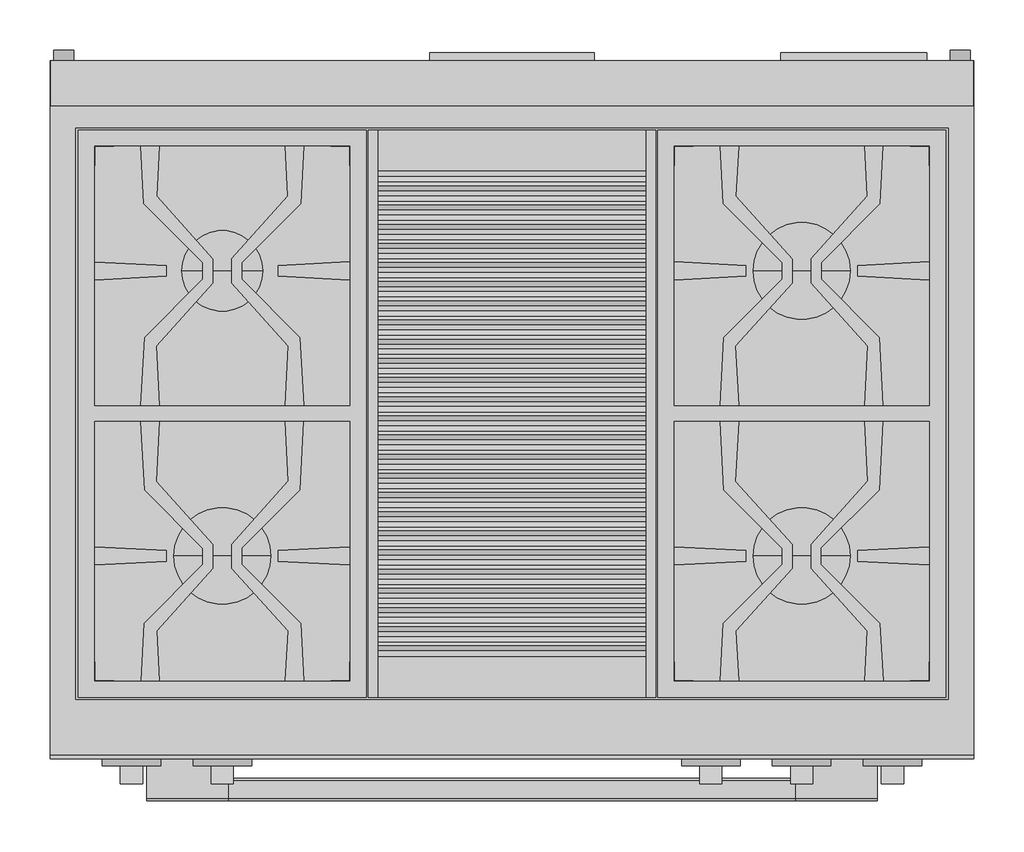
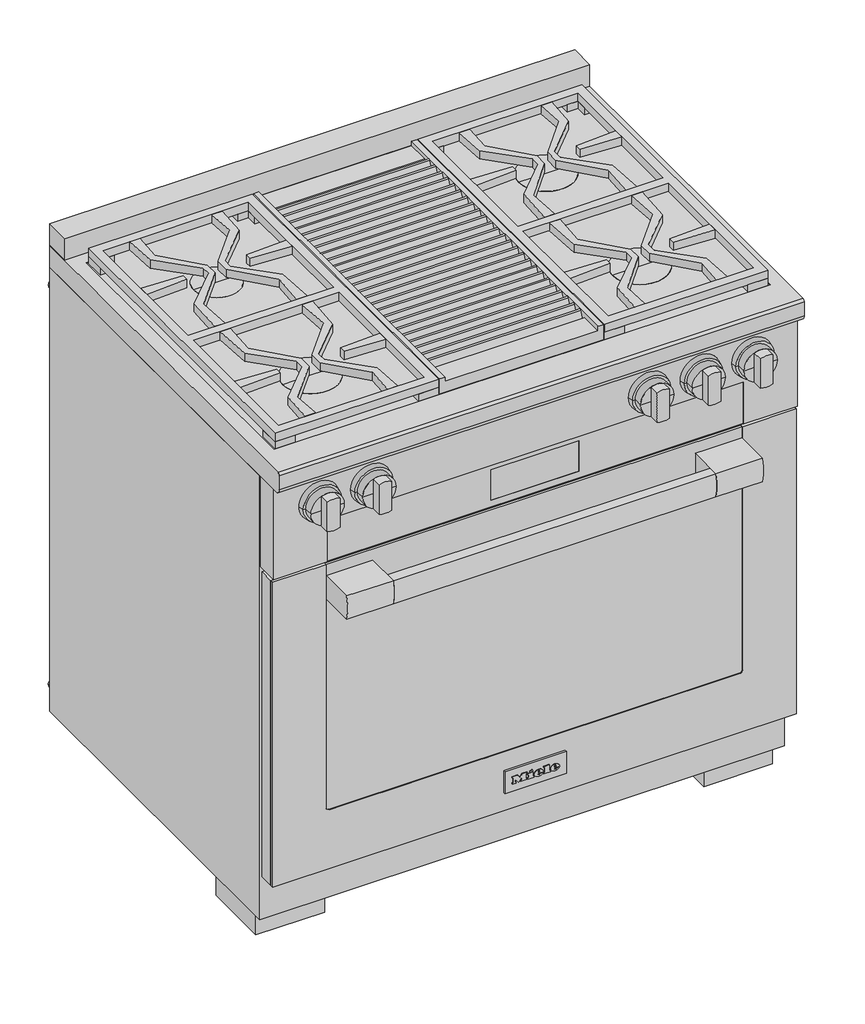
# Not in any storey: 1 proxy.
"""IFC4 building model written with IfcOpenShell, lengths in millimetres."""

from ifc_helpers import new_model, si_unit, origin, place, context, project, spatial, transform, mapped, element, save
from components import specialty_equipment_440a6973, specialty_equipment_dba59635

model = new_model("IFC4")

# Units and contexts
model_context = context("Model", 3, world=origin())
ifc_project = project(units=[si_unit("LENGTHUNIT", "METRE", prefix="MILLI")], contexts=[model_context])

# Site, building
site = spatial("IfcSite", under=ifc_project)
building = spatial("IfcBuilding", under=site)

# Proxy
placement = place(None, origin())
specialty_equipment_shape = specialty_equipment_440a6973(model_context)
specialty_equipment_2_shape = specialty_equipment_dba59635(model_context)
element("IfcBuildingElementProxy", 1, Name="11791600_USA_HR1935-3G_EDST-CLST : 25193581_USA_11791600_HR1935-3G_EDST-CLST", ObjectType="11791600_USA_HR1935-3G_EDST-CLST : 25193581_USA_11791600_HR1935-3G_EDST-CLST", at=placement, inside=building, context=model_context, shape_type="MappedRepresentation", body=[
    mapped(specialty_equipment_shape, transform((0.0, 0.0, 0.0), x_axis=(1.0, 0.0, 0.0), y_axis=(0.0, 1.0, 0.0), z_axis=(0.0, 0.0, 1.0))),
    mapped(specialty_equipment_2_shape, transform((0.0, 0.0, 0.0), x_axis=(1.0, 0.0, 0.0), y_axis=(0.0, 1.0, 0.0), z_axis=(0.0, 0.0, 1.0))),
])

save(model, "model.ifc")
